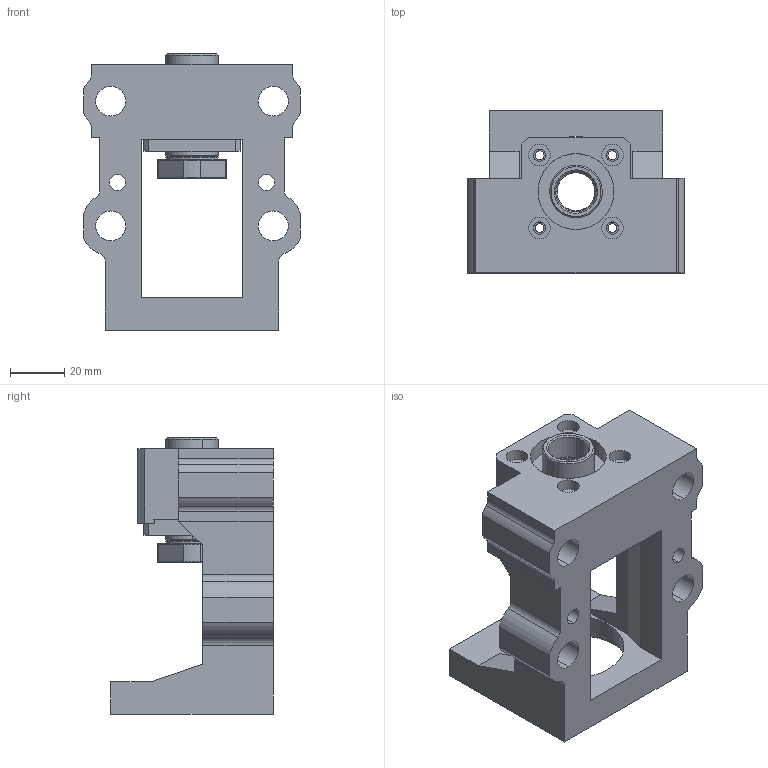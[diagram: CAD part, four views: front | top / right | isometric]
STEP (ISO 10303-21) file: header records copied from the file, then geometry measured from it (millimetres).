
FILE_DESCRIPTION((''),'2;1');
FILE_NAME('M60DP-EK15-C_ASM','2019-06-14T',('ASUS'),(''),'PRO/ENGINEER BY PARAMETRIC TECHNOLOGY CORPORATION, 2010280','PRO/ENGINEER BY PARAMETRIC TECHNOLOGY CORPORATION, 2010280','');
FILE_SCHEMA(('CONFIG_CONTROL_DESIGN'));
Length unit declared in the file: millimetre
Products named in the file (8): MBCE15-DP_3; MBCE15-DP_1; 1; 2; MBCE15-DP_2_ASM; _MBCE15-DP; MBCE15-DP_ASM; M60DP-EK15-C_ASM
Assembly tree (8 placements, depth 4):
  M60DP-EK15-C_ASM
    MBCE15-DP_ASM
      MBCE15-DP_3
      MBCE15-DP_1  x2
      MBCE15-DP_2_ASM
        1
        2
      _MBCE15-DP
Bounding box: 80 x 60 x 102 mm (x, y, z)
Volume: 148385.9 mm3; surface area: 48770.9 mm2
Topology: 6 solids, 6 shells, 283 faces, 729 edges, 465 vertices
Faces by surface type: cylinder 124, plane 97, cone 54, bspline 8
Entity records: 9289 total; most frequent: CARTESIAN_POINT 2316, DIRECTION 1477, ORIENTED_EDGE 1386, EDGE_CURVE 693, AXIS2_PLACEMENT_3D 570, VERTEX_POINT 449, VECTOR 337, LINE 337
